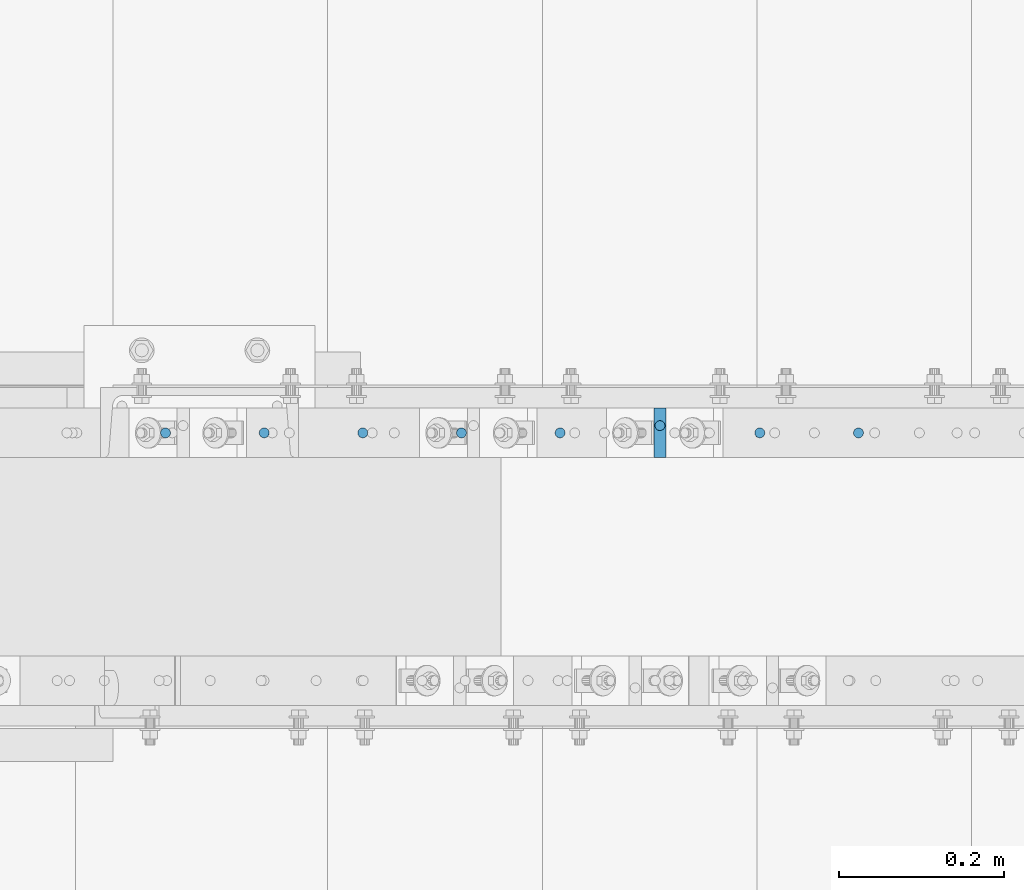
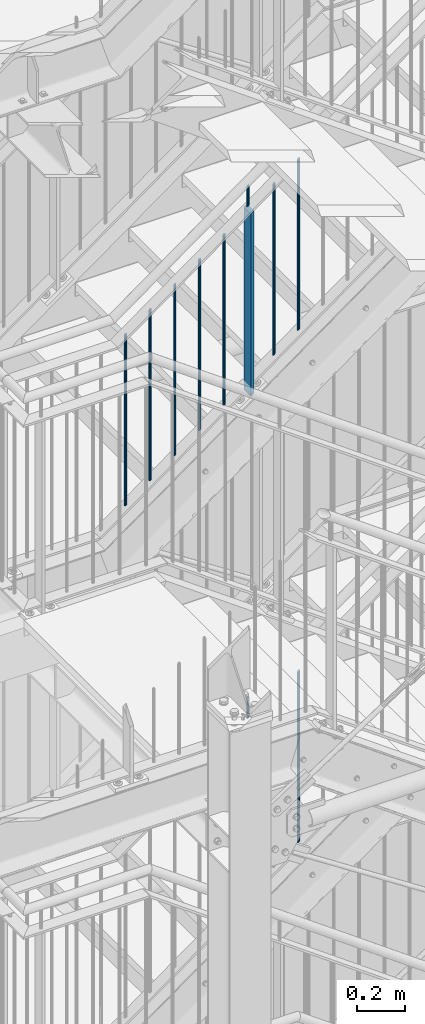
# One storey, part 45 of 825: 11 columns.
"""IFC2X3 building model written with IfcOpenShell, lengths in millimetres."""

import ifcopenshell
import ifcopenshell.guid

model = None  # the IFC model being written
_history = None  # IfcOwnerHistory: only IFC2X3 demands one
_inside = {}  # id of a spatial element -> (the spatial element, [elements in it])
_under = {}  # id of a project, library or spatial element -> (it, [spatial elements below it])
_declared = {}  # id of a project -> (the project, [libraries it declares])
_typed = {}  # id of a type object -> (the type object, [elements of that type])
_made_of = {}  # id of a material, layer set ... -> (it, [elements and type objects made of it])


def new_model(schema):
    """Start an empty IFC model of exactly this schema.

    Asked for "IFC4X3", IfcOpenShell would pick the latest addendum, in which some entities
    have other attributes; the version numbers below select the first issue.
    IFC2X3 requires an IfcOwnerHistory on every rooted entity: one is made here for all.
    """
    global model, _history
    if schema == "IFC4X3":
        model = ifcopenshell.file(schema_version=(4, 3, 0, 0))
    else:
        model = ifcopenshell.file(schema=schema)
    _inside.clear()
    _under.clear()
    _declared.clear()
    _typed.clear()
    _made_of.clear()
    _history = None
    if model.schema == "IFC2X3":
        org = make("IfcOrganization", Name="unknown")
        user = make(
            "IfcPersonAndOrganization",
            ThePerson=make("IfcPerson", FamilyName="unknown"),
            TheOrganization=org,
        )
        app = make(
            "IfcApplication",
            ApplicationDeveloper=org,
            Version="unknown",
            ApplicationFullName="unknown",
            ApplicationIdentifier="unknown",
        )
        _history = make(
            "IfcOwnerHistory",
            OwningUser=user,
            OwningApplication=app,
            ChangeAction="ADDED",
            CreationDate=0,
        )
    return model


def make(cls, **values):
    """One entity of the class cls with the attributes given. An attribute that is None is left unset."""
    return model.create_entity(
        cls, **{name: value for name, value in values.items() if value is not None}
    )


def entity(cls, *values):
    """Any entity or typed value of the class cls, its attributes in the order of the schema. None: left unset."""
    e = model.create_entity(cls)
    for i, value in enumerate(values):
        if value is not None:
            e[i] = value
    return e


def rooted(cls, **values):
    """An entity with a GlobalId (a new one), such as an element, a storey or a relation."""
    return make(cls, GlobalId=ifcopenshell.guid.new(), OwnerHistory=_history, **values)


def si_unit(unit_type, name, prefix=None):
    """IfcSIUnit, for example si_unit("LENGTHUNIT", "METRE", prefix="MILLI")."""
    return make("IfcSIUnit", UnitType=unit_type, Prefix=prefix, Name=name)


def converted_unit(unit_type, name, factor, base, dimensions=None, offset=None):
    """IfcConversionBasedUnit, such as the inch: factor (a typed value) times the base unit."""
    return make(
        "IfcConversionBasedUnit"
        if offset is None
        else "IfcConversionBasedUnitWithOffset",
        ConversionOffset=offset,
        Dimensions=None
        if dimensions is None
        else entity("IfcDimensionalExponents", *dimensions),
        UnitType=unit_type,
        Name=name,
        ConversionFactor=make(
            "IfcMeasureWithUnit", ValueComponent=factor, UnitComponent=base
        ),
    )


def assignment(units):
    """IfcUnitAssignment: the units of a project."""
    return None if units is None else make("IfcUnitAssignment", Units=units)


def point(xyz):
    """IfcCartesianPoint."""
    return None if xyz is None else make("IfcCartesianPoint", Coordinates=xyz)


def direction(xyz):
    """IfcDirection."""
    return None if xyz is None else make("IfcDirection", DirectionRatios=xyz)


def frame(location, z_axis=None, x_axis=None):
    """IfcAxis2Placement3D, a coordinate frame: its origin and axes. An axis left out is left unset."""
    return make(
        "IfcAxis2Placement3D",
        Location=point(location),
        Axis=direction(z_axis),
        RefDirection=direction(x_axis),
    )


def frame_2d(location, x_axis=None):
    """IfcAxis2Placement2D, a coordinate frame in the plane: its origin and x axis."""
    return make(
        "IfcAxis2Placement2D", Location=point(location), RefDirection=direction(x_axis)
    )


def origin():
    """The frame at (0, 0, 0) with its axes left unset."""
    return frame((0.0, 0.0, 0.0))


def origin_with_axes():
    """The frame at (0, 0, 0) with the z axis (0, 0, 1) and the x axis (1, 0, 0) written out."""
    return frame((0.0, 0.0, 0.0), z_axis=(0.0, 0.0, 1.0), x_axis=(1.0, 0.0, 0.0))


def origin_2d():
    """The frame at (0, 0) in the plane with its x axis left unset."""
    return frame_2d((0.0, 0.0))


def place(relative_to, where):
    """IfcLocalPlacement: puts the frame where relative to a parent placement (None: the world)."""
    return make(
        "IfcLocalPlacement", PlacementRelTo=relative_to, RelativePlacement=where
    )


def context(
    kind, dimensions, precision=None, world=None, true_north=None, identifier=None
):
    """IfcGeometricRepresentationContext, for example the 3D "Model" context."""
    return make(
        "IfcGeometricRepresentationContext",
        ContextIdentifier=identifier,
        ContextType=kind,
        CoordinateSpaceDimension=dimensions,
        Precision=precision,
        WorldCoordinateSystem=world,
        TrueNorth=true_north,
    )


def project(units=None, contexts=None):
    """IfcProject with its units and contexts."""
    return rooted(
        "IfcProject",
        Name="project",
        RepresentationContexts=contexts,
        UnitsInContext=assignment(units),
    )


def spatial(cls, under=None, at=None, **own):
    """A site, building, storey or space (cls), placed at a placement, below another one or the project."""
    s = rooted(cls, ObjectPlacement=at, **own)
    if under is not None:
        _under.setdefault(under.id(), (under, []))[1].append(s)
    return s


def profile(cls, at=None, kind="AREA", **sizes):
    """A parametric profile (cls). Its sizes go by their IFC names, for example OverallWidth=200.0."""
    return make(cls, ProfileType=kind, Position=at, **sizes)


def rectangle(**sizes):
    """IfcRectangleProfileDef."""
    return profile("IfcRectangleProfileDef", **sizes)


def circle(**sizes):
    """IfcCircleProfileDef."""
    return profile("IfcCircleProfileDef", **sizes)


def extrude(swept, where, along, depth):
    """IfcExtrudedAreaSolid: the profile swept, set in the frame where, extruded along a direction by depth."""
    return make(
        "IfcExtrudedAreaSolid",
        SweptArea=swept,
        Position=where,
        ExtrudedDirection=direction(along),
        Depth=depth,
    )


def clip(a, b, op="DIFFERENCE"):
    """IfcBooleanClippingResult: the solid a cut by the half space b."""
    return make(
        "IfcBooleanClippingResult", Operator=op, FirstOperand=a, SecondOperand=b
    )


def halfspace(plane, agree):
    """IfcHalfSpaceSolid: all space on one side of the plane z = 0 of the frame plane."""
    return make(
        "IfcHalfSpaceSolid",
        BaseSurface=make("IfcPlane", Position=plane),
        AgreementFlag=agree,
    )


def shape(context_of_items, identifier, shape_type, items):
    """IfcShapeRepresentation: the items that make up one representation, for example the "Body"."""
    return make(
        "IfcShapeRepresentation",
        ContextOfItems=context_of_items,
        RepresentationIdentifier=identifier,
        RepresentationType=shape_type,
        Items=items,
    )


def material(Name=None, Category=None):
    """IfcMaterial."""
    return make("IfcMaterial", Name=Name, Category=Category)


def made_of(thing, what):
    """Note that an element or type object is made of a material, layer set ...; save() writes the relation."""
    if what is not None:
        _made_of.setdefault(what.id(), (what, []))[1].append(thing)
    return thing


def element(
    cls,
    number,
    at=None,
    inside=None,
    cuts=None,
    type_object=None,
    material=None,
    context=None,
    identifier="Body",
    shape_type=None,
    held_by="IfcProductDefinitionShape",
    body=None,
    shapes=None,
    **own,
):
    """One element of the class cls, such as IfcWall. Its Tag is "e" and its number.

    at: its placement. inside: the storey or other place that contains it. cuts: it is an
    opening in that element (IfcRelVoidsElement). A single representation is given by context,
    identifier, shape_type and body (its items); several are given by shapes. held_by: the class
    of the entity that holds the representations. save() writes the other relations.
    """
    e = rooted(cls, Tag="e%d" % number, ObjectPlacement=at, **own)
    if body is not None:
        shapes = [shape(context, identifier, shape_type, body)]
    if shapes is not None:
        e.Representation = make(held_by, Representations=shapes)
    if inside is not None:
        _inside.setdefault(inside.id(), (inside, []))[1].append(e)
    if cuts is not None:
        rooted(
            "IfcRelVoidsElement", RelatingBuildingElement=cuts, RelatedOpeningElement=e
        )
    if type_object is not None:
        _typed.setdefault(type_object.id(), (type_object, []))[1].append(e)
    return made_of(e, material)


def aggregate(whole, parts):
    """IfcRelAggregates: a whole, such as a stair, and the parts it consists of."""
    return rooted("IfcRelAggregates", RelatingObject=whole, RelatedObjects=parts)


def save(model, path):
    """Write the relations noted so far, then the file.

    IfcRelAggregates (storeys below a building ...), IfcRelContainedInSpatialStructure (elements
    in a storey), IfcRelDefinesByType, IfcRelAssociatesMaterial and IfcRelDeclares: one each for
    every whole, place, type object, material and project.
    """
    for whole, parts in _under.values():
        aggregate(whole, parts)
    for where, things in _inside.values():
        rooted(
            "IfcRelContainedInSpatialStructure",
            RelatedElements=things,
            RelatingStructure=where,
        )
    for kind, things in _typed.values():
        rooted("IfcRelDefinesByType", RelatedObjects=things, RelatingType=kind)
    for what, things in _made_of.values():
        rooted("IfcRelAssociatesMaterial", RelatedObjects=things, RelatingMaterial=what)
    for by, libraries in _declared.values():
        rooted("IfcRelDeclares", RelatingContext=by, RelatedDefinitions=libraries)
    model.write(path)


model = new_model("IFC2X3")

# Units and contexts
model_context = context("Model", 3, precision=1e-09, world=origin_with_axes())
ifc_project = project(units=[si_unit("LENGTHUNIT", "METRE", prefix="MILLI"), si_unit("AREAUNIT", "SQUARE_METRE"), si_unit("VOLUMEUNIT", "CUBIC_METRE"), converted_unit("PLANEANGLEUNIT", "DEGREE", entity("IfcPlaneAngleMeasure", 0.01745329), si_unit("PLANEANGLEUNIT", "RADIAN"), dimensions=[0, 0, 0, 0, 0, 0, 0])], contexts=[model_context])

# Site, building, storey
site_placement = place(None, origin_with_axes())
site = spatial("IfcSite", under=ifc_project, at=site_placement, Name="Cnopf'sche Kinderklinik", CompositionType="ELEMENT")
building_placement = place(site_placement, origin_with_axes())
building = spatial("IfcBuilding", under=site, at=building_placement, Name="Struktur 1", CompositionType="ELEMENT")
storey_placement = place(building_placement, origin_with_axes())
storey = spatial("IfcBuildingStorey", under=building, at=storey_placement, Name="Default Storey", CompositionType="ELEMENT", Elevation=0.0)

# Columns
ifc_material = material(Name="S235JR")
column_1_placement = place(None, frame((6139.613965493, 6091.736971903, 11615.613845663), z_axis=(0.0, 0.0, 1.0), x_axis=(1.0, 0.0, 0.0)))
element("IfcColumn", 1, at=column_1_placement, inside=storey, material=ifc_material, Name="Railing_Picket_Stair#10", ObjectType="Railing_Picket_Stair#10", context=model_context, shape_type="Clipping", body=[
    clip(clip(extrude(circle(Radius=6.0, at=origin_2d()), origin(), (0.0, 0.0, -1.0), 896.125751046), halfspace(frame((-9544.027254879, -6091.736971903, -6898.421470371), z_axis=(0.585213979, 0.0, -0.810878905), x_axis=(0.0, 1.0, 0.0)), True)), halfspace(frame((-9128.714409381, -6091.736971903, -7473.883502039), z_axis=(-0.585213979, 0.0, 0.810878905), x_axis=(0.0, -1.0, 0.0)), True)),
])
column_2_placement = place(None, frame((5899.213902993, 6100.536971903, 11554.448625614), z_axis=(0.0, 0.0, 1.0), x_axis=(0.0, -1.0, 0.0)))
element("IfcColumn", 2, at=column_2_placement, inside=storey, material=ifc_material, Name="Bar#1", ObjectType="Bar#1", context=model_context, shape_type="Clipping", body=[
    clip(clip(extrude(circle(Radius=6.0, at=origin_2d()), origin(), (0.0, 0.0, -1.0), 120.928603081), halfspace(frame((6100.536971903, -9309.480502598, -6829.145839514), z_axis=(0.0, -0.585213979, 0.810878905), x_axis=(1.0, 0.0, 0.0)), True)), halfspace(frame((6100.536971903, -9356.933099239, -6763.395001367), z_axis=(0.0, 0.585213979, -0.810878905), x_axis=(-1.0, 0.0, 0.0)), True)),
])
column_3_placement = place(None, frame((5899.213902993, 6091.736971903, 14098.24323946), z_axis=(0.0, 0.0, 1.0), x_axis=(1.0, 0.0, 0.0)))
element("IfcColumn", 3, at=column_3_placement, inside=storey, material=ifc_material, Name="Railing_Post_Stair#1", ObjectType="Railing_Post_Stair#1", context=model_context, shape_type="Clipping", body=[
    clip(clip(extrude(rectangle(XDim=15.0, YDim=60.0, at=origin_2d()), origin(), (0.0, 0.0, -1.0), 1013.143391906), halfspace(frame((-10104.223553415, -6091.736971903, -8289.425354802), z_axis=(-0.586383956, 0.0, 0.810033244), x_axis=(0.0, -1.0, 0.0)), True)), halfspace(frame((-10549.190019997, -6091.736971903, -7674.74682037), z_axis=(0.586383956, 0.0, -0.810033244), x_axis=(0.0, 1.0, 0.0)), True)),
])
column_4_placement = place(None, frame((5300.463652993, 6091.736971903, 13637.107164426), z_axis=(0.0, 0.0, 1.0), x_axis=(1.0, 0.0, 0.0)))
element("IfcColumn", 4, at=column_4_placement, inside=storey, material=ifc_material, Name="Railing_Picket_Stair#4", ObjectType="Railing_Picket_Stair#4", context=model_context, shape_type="Clipping", body=[
    clip(clip(extrude(circle(Radius=6.0, at=origin_2d()), origin(), (0.0, 0.0, -1.0), 896.017308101), halfspace(frame((-9950.439769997, -6091.736971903, -7213.610745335), z_axis=(0.586383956, 0.0, -0.810033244), x_axis=(0.0, 1.0, 0.0)), True)), halfspace(frame((-9534.792501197, -6091.736971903, -7787.787617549), z_axis=(-0.586383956, 0.0, 0.810033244), x_axis=(0.0, -1.0, 0.0)), True)),
])
column_5_placement = place(None, frame((5419.913715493, 6091.736971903, 13723.577195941), z_axis=(0.0, 0.0, 1.0), x_axis=(1.0, 0.0, 0.0)))
element("IfcColumn", 5, at=column_5_placement, inside=storey, material=ifc_material, Name="Railing_Picket_Stair#5", ObjectType="Railing_Picket_Stair#5", context=model_context, shape_type="Clipping", body=[
    clip(clip(extrude(circle(Radius=6.0, at=origin_2d()), origin(), (0.0, 0.0, -1.0), 896.017308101), halfspace(frame((-10069.889832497, -6091.736971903, -7300.080776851), z_axis=(0.586383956, 0.0, -0.810033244), x_axis=(0.0, 1.0, 0.0)), True)), halfspace(frame((-9654.242563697, -6091.736971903, -7874.257649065), z_axis=(-0.586383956, 0.0, 0.810033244), x_axis=(0.0, -1.0, 0.0)), True)),
])
column_6_placement = place(None, frame((5539.363777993, 6091.736971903, 13810.047227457), z_axis=(0.0, 0.0, 1.0), x_axis=(1.0, 0.0, 0.0)))
element("IfcColumn", 6, at=column_6_placement, inside=storey, material=ifc_material, Name="Railing_Picket_Stair#6", ObjectType="Railing_Picket_Stair#6", context=model_context, shape_type="Clipping", body=[
    clip(clip(extrude(circle(Radius=6.0, at=origin_2d()), origin(), (0.0, 0.0, -1.0), 896.017308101), halfspace(frame((-10189.339894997, -6091.736971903, -7386.550808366), z_axis=(0.586383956, 0.0, -0.810033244), x_axis=(0.0, 1.0, 0.0)), True)), halfspace(frame((-9773.692626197, -6091.736971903, -7960.727680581), z_axis=(-0.586383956, 0.0, 0.810033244), x_axis=(0.0, -1.0, 0.0)), True)),
])
column_7_placement = place(None, frame((5658.813840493, 6091.736971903, 13896.517258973), z_axis=(0.0, 0.0, 1.0), x_axis=(1.0, 0.0, 0.0)))
element("IfcColumn", 7, at=column_7_placement, inside=storey, material=ifc_material, Name="Railing_Picket_Stair#7", ObjectType="Railing_Picket_Stair#7", context=model_context, shape_type="Clipping", body=[
    clip(clip(extrude(circle(Radius=6.0, at=origin_2d()), origin(), (0.0, 0.0, -1.0), 896.017308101), halfspace(frame((-10308.789957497, -6091.736971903, -7473.020839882), z_axis=(0.586383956, 0.0, -0.810033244), x_axis=(0.0, 1.0, 0.0)), True)), halfspace(frame((-9893.142688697, -6091.736971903, -8047.197712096), z_axis=(-0.586383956, 0.0, 0.810033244), x_axis=(0.0, -1.0, 0.0)), True)),
])
column_8_placement = place(None, frame((5778.263902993, 6091.736971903, 13982.987290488), z_axis=(0.0, 0.0, 1.0), x_axis=(1.0, 0.0, 0.0)))
element("IfcColumn", 8, at=column_8_placement, inside=storey, material=ifc_material, Name="Railing_Picket_Stair#8", ObjectType="Railing_Picket_Stair#8", context=model_context, shape_type="Clipping", body=[
    clip(clip(extrude(circle(Radius=6.0, at=origin_2d()), origin(), (0.0, 0.0, -1.0), 896.017308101), halfspace(frame((-10428.240019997, -6091.736971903, -7559.490871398), z_axis=(0.586383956, 0.0, -0.810033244), x_axis=(0.0, 1.0, 0.0)), True)), halfspace(frame((-10012.592751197, -6091.736971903, -8133.667743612), z_axis=(-0.586383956, 0.0, 0.810033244), x_axis=(0.0, -1.0, 0.0)), True)),
])
column_9_placement = place(None, frame((6020.163902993, 6091.736971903, 14158.098966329), z_axis=(0.0, 0.0, 1.0), x_axis=(1.0, 0.0, 0.0)))
element("IfcColumn", 9, at=column_9_placement, inside=storey, material=ifc_material, Name="Railing_Picket_Stair#9", ObjectType="Railing_Picket_Stair#9", context=model_context, shape_type="Clipping", body=[
    clip(clip(extrude(circle(Radius=6.0, at=origin_2d()), origin(), (0.0, 0.0, -1.0), 896.017308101), halfspace(frame((-10670.140019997, -6091.736971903, -7734.602547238), z_axis=(0.586383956, 0.0, -0.810033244), x_axis=(0.0, 1.0, 0.0)), True)), halfspace(frame((-10254.492751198, -6091.736971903, -8308.779419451), z_axis=(-0.586383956, 0.0, 0.810033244), x_axis=(0.0, -1.0, 0.0)), True)),
])
column_10_placement = place(None, frame((6139.613965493, 6091.736971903, 14244.568997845), z_axis=(0.0, 0.0, 1.0), x_axis=(1.0, 0.0, 0.0)))
element("IfcColumn", 10, at=column_10_placement, inside=storey, material=ifc_material, Name="Railing_Picket_Stair#10", ObjectType="Railing_Picket_Stair#10", context=model_context, shape_type="Clipping", body=[
    clip(clip(extrude(circle(Radius=6.0, at=origin_2d()), origin(), (0.0, 0.0, -1.0), 896.017308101), halfspace(frame((-10789.590082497, -6091.736971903, -7821.072578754), z_axis=(0.586383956, 0.0, -0.810033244), x_axis=(0.0, 1.0, 0.0)), True)), halfspace(frame((-10373.942813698, -6091.736971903, -8395.249450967), z_axis=(-0.586383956, 0.0, 0.810033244), x_axis=(0.0, -1.0, 0.0)), True)),
])
column_11_placement = place(None, frame((5899.213902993, 6100.536971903, 14182.888300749), z_axis=(0.0, 0.0, 1.0), x_axis=(0.0, -1.0, 0.0)))
element("IfcColumn", 11, at=column_11_placement, inside=storey, material=ifc_material, Name="Bar#1", ObjectType="Bar#1", context=model_context, shape_type="Clipping", body=[
    clip(clip(extrude(circle(Radius=6.0, at=origin_2d()), origin(), (0.0, 0.0, -1.0), 120.950452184), halfspace(frame((6100.536971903, -10555.055032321, -7751.289929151), z_axis=(0.0, -0.586383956, 0.810033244), x_axis=(1.0, 0.0, 0.0)), True)), halfspace(frame((6100.536971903, -10602.55290934, -7685.676163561), z_axis=(0.0, 0.586383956, -0.810033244), x_axis=(-1.0, 0.0, 0.0)), True)),
])

save(model, "model.ifc")
